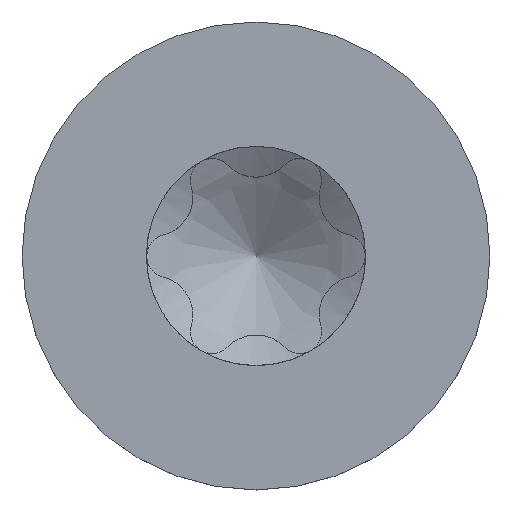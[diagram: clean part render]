
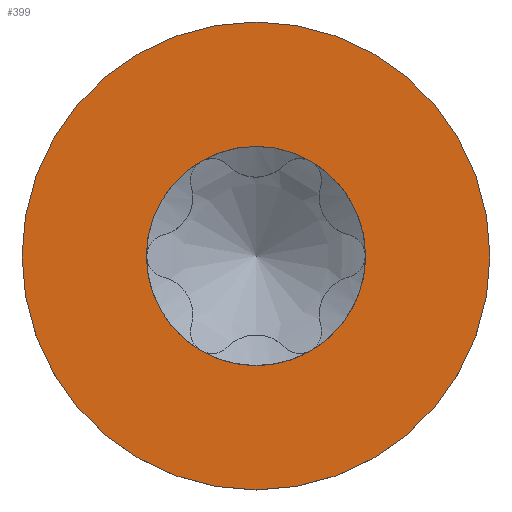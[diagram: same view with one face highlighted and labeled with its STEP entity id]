
A CAD part, top view. The second image highlights one B-rep face of the part: STEP entity #399.
In plain terms, the highlighted planar face has unit normal (0, 0, 1).
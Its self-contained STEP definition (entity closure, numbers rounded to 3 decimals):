
#372=PLANE('',#1973);
#379=FACE_BOUND('',#651,.T.);
#380=FACE_BOUND('',#652,.T.);
#399=ADVANCED_FACE('',(#379,#380),#372,.F.);
#651=EDGE_LOOP('',(#856));
#652=EDGE_LOOP('',(#857));
#784=CIRCLE('',#1971,2.81);
#785=CIRCLE('',#1972,6.);
#856=ORIENTED_EDGE('',*,*,#1578,.F.);
#857=ORIENTED_EDGE('',*,*,#1579,.F.);
#1409=VERTEX_POINT('',#4586);
#1410=VERTEX_POINT('',#4588);
#1578=EDGE_CURVE('',#1409,#1409,#784,.T.);
#1579=EDGE_CURVE('',#1410,#1410,#785,.T.);
#1971=AXIS2_PLACEMENT_3D('',#4585,#2021,#2022);
#1972=AXIS2_PLACEMENT_3D('',#4587,#2023,#2024);
#1973=AXIS2_PLACEMENT_3D('',#4589,#2025,#2026);
#2021=DIRECTION('',(0.,0.,1.));
#2022=DIRECTION('',(-1.,0.,0.));
#2023=DIRECTION('',(0.,0.,-1.));
#2024=DIRECTION('',(-1.,0.,0.));
#2025=DIRECTION('',(0.,0.,-1.));
#2026=DIRECTION('',(-1.,0.,0.));
#4585=CARTESIAN_POINT('',(0.,0.,4.51));
#4586=CARTESIAN_POINT('',(-2.81,0.,4.51));
#4587=CARTESIAN_POINT('',(0.,0.,4.51));
#4588=CARTESIAN_POINT('',(-6.,0.,4.51));
#4589=CARTESIAN_POINT('',(0.,0.,4.51));
